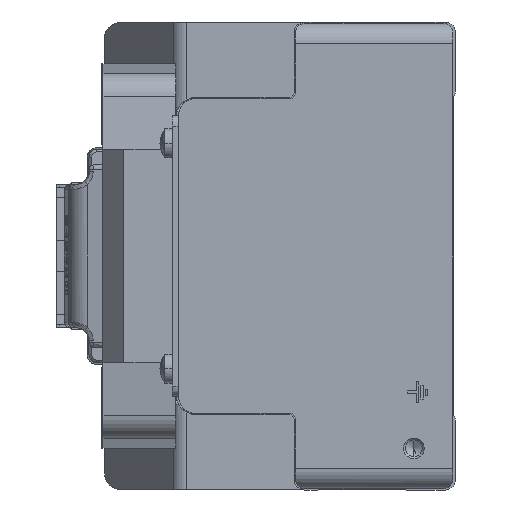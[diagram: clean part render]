
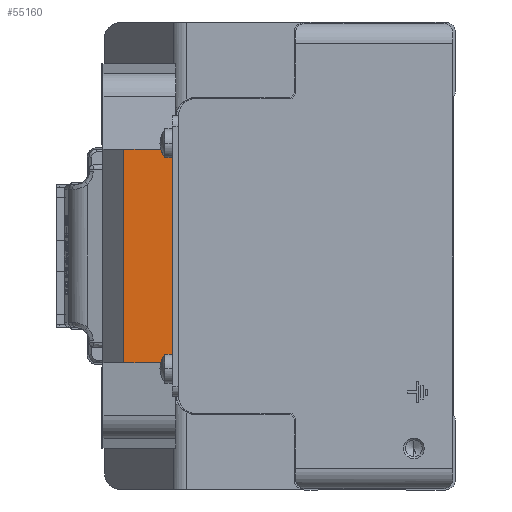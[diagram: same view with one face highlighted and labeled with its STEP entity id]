
A CAD part, left-side view. The second image highlights one B-rep face of the part: STEP entity #55160.
In plain terms, the highlighted planar face has unit normal (-1, 0, 0) as drawn and (0, 0, 1) by its records, which use the part's own axes.
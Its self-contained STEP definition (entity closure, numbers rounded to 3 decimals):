
#727 = EDGE_CURVE ( 'NONE', #33555, #16524, #4258, .T. ) ;
#1737 = EDGE_LOOP ( 'NONE', ( #6387, #33424, #6601, #33618, #12422, #11388, #13331, #5734 ) ) ;
#2127 = EDGE_CURVE ( 'NONE', #39222, #16524, #42901, .T. ) ;
#2660 = CARTESIAN_POINT ( 'NONE',  ( 20.5, 10., 170. ) ) ;
#4168 = LINE ( 'NONE', #21951, #16414 ) ;
#4209 = DIRECTION ( 'NONE',  ( -1., 0., 0. ) ) ;
#4258 = LINE ( 'NONE', #53045, #54507 ) ;
#4705 = VERTEX_POINT ( 'NONE', #55077 ) ;
#5388 = CARTESIAN_POINT ( 'NONE',  ( -20., -2., 170. ) ) ;
#5487 = CARTESIAN_POINT ( 'NONE',  ( 20.5, 0., 170. ) ) ;
#5734 = ORIENTED_EDGE ( 'NONE', *, *, #2127, .F. ) ;
#6003 = LINE ( 'NONE', #32317, #8809 ) ;
#6143 = CARTESIAN_POINT ( 'NONE',  ( 19.5, 0., 170. ) ) ;
#6387 = ORIENTED_EDGE ( 'NONE', *, *, #15085, .T. ) ;
#6601 = ORIENTED_EDGE ( 'NONE', *, *, #41842, .T. ) ;
#7268 = DIRECTION ( 'NONE',  ( 0., -1., 0. ) ) ;
#8344 = DIRECTION ( 'NONE',  ( 0.243, 0.97, 0. ) ) ;
#8809 = VECTOR ( 'NONE', #55370, 1000. ) ;
#8950 = CARTESIAN_POINT ( 'NONE',  ( -20.5, 14., 170. ) ) ;
#10653 = DIRECTION ( 'NONE',  ( 0.243, 0.97, 0. ) ) ;
#11388 = ORIENTED_EDGE ( 'NONE', *, *, #53497, .T. ) ;
#11988 = DIRECTION ( 'NONE',  ( 0.243, -0.97, 0. ) ) ;
#12422 = ORIENTED_EDGE ( 'NONE', *, *, #40252, .T. ) ;
#13331 = ORIENTED_EDGE ( 'NONE', *, *, #727, .T. ) ;
#13389 = CARTESIAN_POINT ( 'NONE',  ( 20., -2., 170. ) ) ;
#15085 = EDGE_CURVE ( 'NONE', #39222, #33646, #52279, .T. ) ;
#15330 = LINE ( 'NONE', #50666, #49956 ) ;
#16023 = CARTESIAN_POINT ( 'NONE',  ( 20.5, 14., 170. ) ) ;
#16414 = VECTOR ( 'NONE', #57646, 1000. ) ;
#16524 = VERTEX_POINT ( 'NONE', #5487 ) ;
#17370 = DIRECTION ( 'NONE',  ( 0., 0., -1. ) ) ;
#18185 = EDGE_CURVE ( 'NONE', #42037, #54187, #15330, .T. ) ;
#21292 = LINE ( 'NONE', #34436, #31123 ) ;
#21951 = CARTESIAN_POINT ( 'NONE',  ( -20.5, 0., 170. ) ) ;
#22994 = CARTESIAN_POINT ( 'NONE',  ( -20.5, 10., 170. ) ) ;
#26083 = EDGE_CURVE ( 'NONE', #33646, #4705, #48685, .T. ) ;
#30052 = DIRECTION ( 'NONE',  ( -1., 0., 0. ) ) ;
#31123 = VECTOR ( 'NONE', #11988, 1000. ) ;
#32317 = CARTESIAN_POINT ( 'NONE',  ( -20.5, 0., 170. ) ) ;
#33424 = ORIENTED_EDGE ( 'NONE', *, *, #26083, .T. ) ;
#33555 = VERTEX_POINT ( 'NONE', #13389 ) ;
#33599 = VECTOR ( 'NONE', #7268, 1000. ) ;
#33618 = ORIENTED_EDGE ( 'NONE', *, *, #18185, .T. ) ;
#33646 = VERTEX_POINT ( 'NONE', #22994 ) ;
#34436 = CARTESIAN_POINT ( 'NONE',  ( 19.5, 0., 170. ) ) ;
#36030 = CARTESIAN_POINT ( 'NONE',  ( -20.5, 14., 170. ) ) ;
#36879 = CARTESIAN_POINT ( 'NONE',  ( -19.5, 0., 170. ) ) ;
#39222 = VERTEX_POINT ( 'NONE', #43875 ) ;
#40252 = EDGE_CURVE ( 'NONE', #54187, #54693, #4168, .T. ) ;
#40419 = PLANE ( 'NONE',  #53717 ) ;
#41842 = EDGE_CURVE ( 'NONE', #4705, #42037, #6003, .T. ) ;
#42037 = VERTEX_POINT ( 'NONE', #5388 ) ;
#42901 = LINE ( 'NONE', #16023, #33599 ) ;
#43875 = CARTESIAN_POINT ( 'NONE',  ( 20.5, 10., 170. ) ) ;
#44517 = FACE_OUTER_BOUND ( 'NONE', #1737, .T. ) ;
#48255 = VECTOR ( 'NONE', #49270, 1000. ) ;
#48685 = LINE ( 'NONE', #8950, #48255 ) ;
#49270 = DIRECTION ( 'NONE',  ( 0., -1., 0. ) ) ;
#49956 = VECTOR ( 'NONE', #10653, 1000. ) ;
#50666 = CARTESIAN_POINT ( 'NONE',  ( -20., -2., 170. ) ) ;
#52279 = LINE ( 'NONE', #2660, #54883 ) ;
#53045 = CARTESIAN_POINT ( 'NONE',  ( 20., -2., 170. ) ) ;
#53497 = EDGE_CURVE ( 'NONE', #54693, #33555, #21292, .T. ) ;
#53717 = AXIS2_PLACEMENT_3D ( 'NONE', #36030, #17370, #4209 ) ;
#54187 = VERTEX_POINT ( 'NONE', #36879 ) ;
#54507 = VECTOR ( 'NONE', #8344, 1000. ) ;
#54693 = VERTEX_POINT ( 'NONE', #6143 ) ;
#54883 = VECTOR ( 'NONE', #30052, 1000. ) ;
#55077 = CARTESIAN_POINT ( 'NONE',  ( -20.5, 0., 170. ) ) ;
#55160 = ADVANCED_FACE ( 'NONE', ( #44517 ), #40419, .F. ) ;
#55370 = DIRECTION ( 'NONE',  ( 0.243, -0.97, 0. ) ) ;
#57646 = DIRECTION ( 'NONE',  ( 1., 0., 0. ) ) ;
